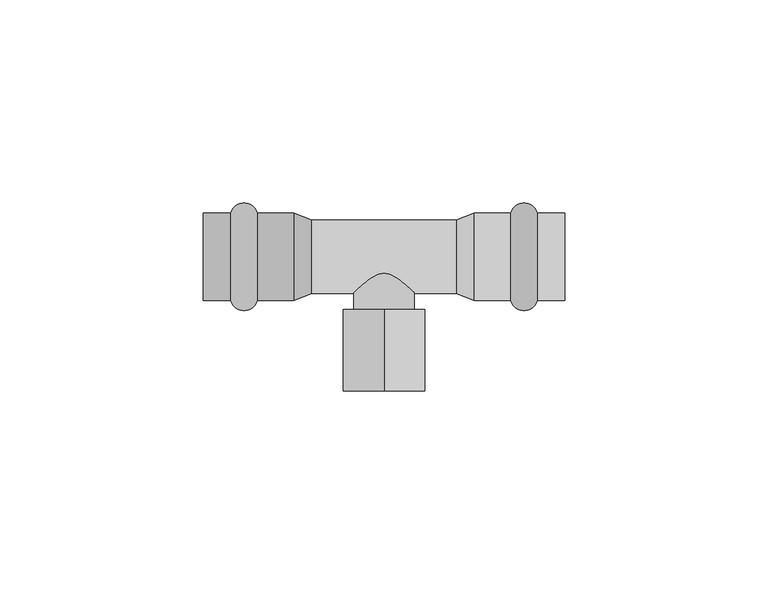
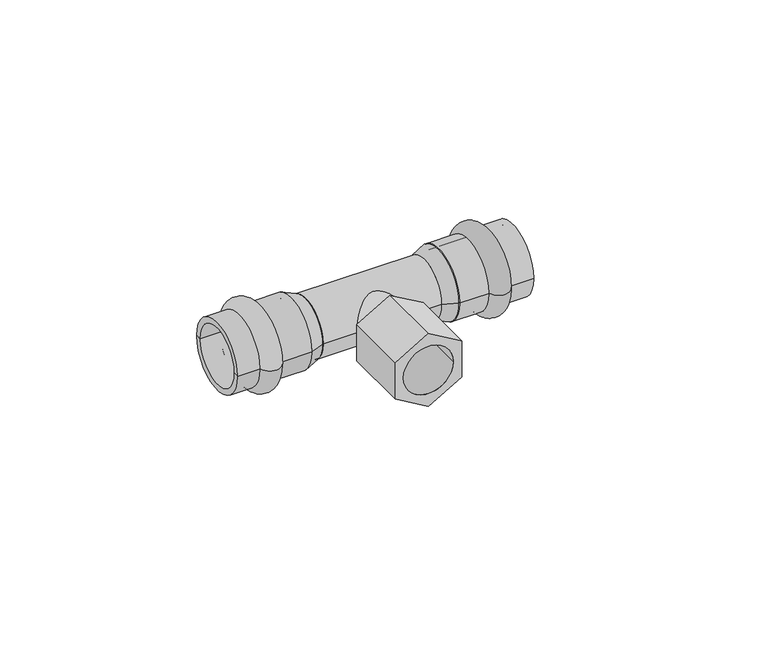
"""IFC4 building model written with IfcOpenShell, lengths in millimetres: pipe fitting geometry, VALTEC_VTi.932.I_Тройник с переходом на внутреннюю резьбу нержавеющая сталь : VTi.932.I."""

from ifc_helpers import new_model, si_unit, point, frame, origin, origin_2d, place, context, project, spatial, polyline, circle_curve, ellipse_curve, trimmed, segment, composite_curve, outline, extrude, source, transform, mapped, element, save
from ifc_brep_helpers import plane_surface, cylinder_surface, revolved_surface, advanced_brep


def pipe_fitting_5465157c(model_context):
    return source(origin(), model_context, "Body", "SolidModel", [
        advanced_brep(
        [(37.7287193, 10.75, 0.0), (37.7287193, -10.75, 0.0), (31.1712807, -10.75, 0.0), (31.1712807, 10.75, 0.0), (44.5, 10.75, 0.0), (44.5, -10.75, 0.0), (44.5, 9.0, 0.0), (44.5, -9.0, 0.0), (22.25, 9.0, 0.0), (22.25, -9.0, 0.0), (22.25, 10.75, 0.0), (22.25, -10.75, 0.0)],
        [
            (0, 1, circle_curve(frame((37.7287193, 0.0, 0.0), z_axis=(-1.0, 0.0, 0.0), x_axis=(0.0, -1.0, 0.0)), 10.75)),
            (1, 2, circle_curve(frame((34.45, -9.85, 0.0), z_axis=(0.0, 0.0, -1.0), x_axis=(-1.0, 0.0, 0.0)), 3.4)),
            (2, 3, circle_curve(frame((31.1712807, 0.0, 0.0), z_axis=(1.0, 0.0, 0.0), x_axis=(0.0, -1.0, 0.0)), 10.75)),
            (3, 0, circle_curve(frame((34.45, 9.85, 0.0), z_axis=(0.0, 0.0, -1.0), x_axis=(-1.0, 0.0, 0.0)), 3.4)),
            (1, 0, circle_curve(frame((37.7287193, 0.0, 0.0), z_axis=(-1.0, 0.0, 0.0), x_axis=(0.0, -1.0, 0.0)), 10.75)),
            (3, 2, circle_curve(frame((31.1712807, 0.0, 0.0), z_axis=(1.0, 0.0, 0.0), x_axis=(0.0, -1.0, 0.0)), 10.75)),
            (4, 5, circle_curve(frame((44.5, 0.0, 0.0), z_axis=(-1.0, 0.0, 0.0), x_axis=(0.0, -1.0, 0.0)), 10.75)),
            (5, 1),
            (0, 4),
            (5, 4, circle_curve(frame((44.5, 0.0, 0.0), z_axis=(-1.0, 0.0, 0.0), x_axis=(0.0, -1.0, 0.0)), 10.75)),
            (6, 7, circle_curve(frame((44.5, 0.0, 0.0), z_axis=(-1.0, 0.0, 0.0), x_axis=(0.0, -1.0, 0.0)), 9.0)),
            (7, 5),
            (4, 6),
            (7, 6, circle_curve(frame((44.5, 0.0, 0.0), z_axis=(-1.0, 0.0, 0.0), x_axis=(0.0, -1.0, 0.0)), 9.0)),
            (8, 9, circle_curve(frame((22.25, 0.0, 0.0), z_axis=(-1.0, 0.0, 0.0), x_axis=(0.0, -1.0, 0.0)), 9.0)),
            (9, 7),
            (6, 8),
            (9, 8, circle_curve(frame((22.25, 0.0, 0.0), z_axis=(-1.0, 0.0, 0.0), x_axis=(0.0, -1.0, 0.0)), 9.0)),
            (10, 11, circle_curve(frame((22.25, 0.0, 0.0), z_axis=(-1.0, 0.0, 0.0), x_axis=(0.0, -1.0, 0.0)), 10.75)),
            (11, 9),
            (8, 10),
            (11, 10, circle_curve(frame((22.25, 0.0, 0.0), z_axis=(-1.0, 0.0, 0.0), x_axis=(0.0, -1.0, 0.0)), 10.75)),
            (2, 11),
            (10, 3),
        ],
        [
            revolved_surface(trimmed(ellipse_curve(frame((34.45, -9.85, 0.0), z_axis=(0.0, 0.0, 1.0), x_axis=(-1.0, 0.0, 0.0)), 3.4, 3.4), [point((31.1712807, -10.75, 0.0))], [point((37.7287193, -10.75, 0.0))], True, "CARTESIAN"), (48.0364426, 0.0, 0.0), (1.0, 0.0, 0.0)),
            cylinder_surface(frame((48.0364426, 0.0, 0.0), z_axis=(1.0, 0.0, 0.0), x_axis=(0.0, -1.0, 0.0)), 10.75),
            plane_surface(frame((44.5, 0.0, 0.0), z_axis=(1.0, 0.0, 0.0), x_axis=(0.0, -1.0, 0.0))),
            revolved_surface(polyline([(44.5, -9.0, 0.0), (22.25, -9.0, 0.0)]), (48.0364426, 0.0, 0.0), (1.0, 0.0, 0.0)),
            plane_surface(frame((22.25, 0.0, 0.0), z_axis=(-1.0, 0.0, 0.0), x_axis=(0.0, -1.0, 0.0))),
        ],
        [
            (0, [[1, 2, 3, 4]]),
            (0, [[5, -4, 6, -2]]),
            (1, [[7, 8, -1, 9]]),
            (1, [[10, -9, -5, -8]]),
            (2, [[11, 12, -7, 13]]),
            (2, [[14, -13, -10, -12]]),
            (3, [[15, 16, -11, 17]]),
            (3, [[18, -17, -14, -16]]),
            (4, [[19, 20, -15, 21]]),
            (4, [[22, -21, -18, -20]]),
            (1, [[-3, 23, -19, 24]]),
            (1, [[-6, -24, -22, -23]]),
        ],
    ),
        advanced_brep(
        [(-37.7287193, -10.75, 0.0), (-37.7287193, 10.75, 0.0), (-31.1712807, 10.75, 0.0), (-31.1712807, -10.75, 0.0), (-44.5, -10.75, 0.0), (-44.5, 10.75, 0.0), (-44.5, -9.0, 0.0), (-44.5, 9.0, 0.0), (-22.25, -9.0, 0.0), (-22.25, 9.0, 0.0), (-22.25, -10.75, 0.0), (-22.25, 10.75, 0.0)],
        [
            (0, 1, circle_curve(frame((-37.7287193, 0.0, 0.0), z_axis=(1.0, 0.0, 0.0), x_axis=(0.0, 1.0, 0.0)), 10.75)),
            (1, 2, circle_curve(frame((-34.45, 9.85, 0.0), z_axis=(0.0, 0.0, -1.0), x_axis=(1.0, 0.0, 0.0)), 3.4)),
            (2, 3, circle_curve(frame((-31.1712807, 0.0, 0.0), z_axis=(-1.0, 0.0, 0.0), x_axis=(0.0, 1.0, 0.0)), 10.75)),
            (3, 0, circle_curve(frame((-34.45, -9.85, 0.0), z_axis=(0.0, 0.0, -1.0), x_axis=(1.0, 0.0, 0.0)), 3.4)),
            (1, 0, circle_curve(frame((-37.7287193, 0.0, 0.0), z_axis=(1.0, 0.0, 0.0), x_axis=(0.0, 1.0, 0.0)), 10.75)),
            (3, 2, circle_curve(frame((-31.1712807, 0.0, 0.0), z_axis=(-1.0, 0.0, 0.0), x_axis=(0.0, 1.0, 0.0)), 10.75)),
            (4, 5, circle_curve(frame((-44.5, 0.0, 0.0), z_axis=(1.0, 0.0, 0.0), x_axis=(0.0, 1.0, 0.0)), 10.75)),
            (5, 1),
            (0, 4),
            (5, 4, circle_curve(frame((-44.5, 0.0, 0.0), z_axis=(1.0, 0.0, 0.0), x_axis=(0.0, 1.0, 0.0)), 10.75)),
            (6, 7, circle_curve(frame((-44.5, 0.0, 0.0), z_axis=(1.0, 0.0, 0.0), x_axis=(0.0, 1.0, 0.0)), 9.0)),
            (7, 5),
            (4, 6),
            (7, 6, circle_curve(frame((-44.5, 0.0, 0.0), z_axis=(1.0, 0.0, 0.0), x_axis=(0.0, 1.0, 0.0)), 9.0)),
            (8, 9, circle_curve(frame((-22.25, 0.0, 0.0), z_axis=(1.0, 0.0, 0.0), x_axis=(0.0, 1.0, 0.0)), 9.0)),
            (9, 7),
            (6, 8),
            (9, 8, circle_curve(frame((-22.25, 0.0, 0.0), z_axis=(1.0, 0.0, 0.0), x_axis=(0.0, 1.0, 0.0)), 9.0)),
            (10, 11, circle_curve(frame((-22.25, 0.0, 0.0), z_axis=(1.0, 0.0, 0.0), x_axis=(0.0, 1.0, 0.0)), 10.75)),
            (11, 9),
            (8, 10),
            (11, 10, circle_curve(frame((-22.25, 0.0, 0.0), z_axis=(1.0, 0.0, 0.0), x_axis=(0.0, 1.0, 0.0)), 10.75)),
            (2, 11),
            (10, 3),
        ],
        [
            revolved_surface(trimmed(ellipse_curve(frame((-34.45, 9.85, 0.0), z_axis=(0.0, 0.0, 1.0), x_axis=(1.0, 0.0, 0.0)), 3.4, 3.4), [point((-31.1712807, 10.75, 0.0))], [point((-37.7287193, 10.75, 0.0))], True, "CARTESIAN"), (-48.0364426, 0.0, 0.0), (-1.0, 0.0, 0.0)),
            cylinder_surface(frame((-48.0364426, 0.0, 0.0), z_axis=(-1.0, 0.0, 0.0), x_axis=(0.0, 1.0, 0.0)), 10.75),
            plane_surface(frame((-44.5, 0.0, 0.0), z_axis=(-1.0, 0.0, 0.0), x_axis=(0.0, 1.0, 0.0))),
            revolved_surface(polyline([(-44.5, 9.0, 0.0), (-22.25, 9.0, 0.0)]), (-48.0364426, 0.0, 0.0), (-1.0, 0.0, 0.0)),
            plane_surface(frame((-22.25, 0.0, 0.0), z_axis=(1.0, 0.0, 0.0), x_axis=(0.0, 1.0, 0.0))),
        ],
        [
            (0, [[1, 2, 3, 4]]),
            (0, [[5, -4, 6, -2]]),
            (1, [[7, 8, -1, 9]]),
            (1, [[10, -9, -5, -8]]),
            (2, [[11, 12, -7, 13]]),
            (2, [[14, -13, -10, -12]]),
            (3, [[15, 16, -11, 17]]),
            (3, [[18, -17, -14, -16]]),
            (4, [[19, 20, -15, 21]]),
            (4, [[22, -21, -18, -20]]),
            (1, [[-3, 23, -19, 24]]),
            (1, [[-6, -24, -22, -23]]),
        ],
    ),
        extrude(outline(polyline([(11.5470054, 0.0), (5.7735027, -10.0), (-5.7735027, -10.0), (-11.5470054, 0.0), (-5.7735027, 10.0), (5.7735027, 10.0), (11.5470054, 0.0)]), holes=[composite_curve([segment(trimmed(circle_curve(origin_2d(), 7.5), [point((0.0, -7.5))], [point((0.0, 7.5))], True, "CARTESIAN"), True, "CONTINUOUS"), segment(trimmed(circle_curve(origin_2d(), 7.5), [point((0.0, 7.5))], [point((0.0, -7.5))], True, "CARTESIAN"), True, "CONTINUOUS")], self_intersect=False)]), frame((0.0, -33.0, 0.0), z_axis=(0.0, 1.0, 0.0), x_axis=(0.0, 0.0, 1.0)), (0.0, 0.0, 1.0), 20.0),
        extrude(outline(composite_curve([segment(trimmed(circle_curve(origin_2d(), 7.5), [point((0.0, -7.5))], [point((0.0, 7.5))], False, "CARTESIAN"), True, "CONTINUOUS"), segment(trimmed(circle_curve(origin_2d(), 7.5), [point((0.0, 7.5))], [point((0.0, -7.5))], False, "CARTESIAN"), True, "CONTINUOUS")], self_intersect=False)), frame((0.0, -13.0, 0.0), z_axis=(0.0, 1.0, 0.0), x_axis=(0.0, 0.0, 1.0)), (0.0, 0.0, 1.0), 13.0),
        extrude(outline(composite_curve([segment(trimmed(circle_curve(origin_2d(), 9.0), [point((-9.0, 0.0))], [point((9.0, 0.0))], False, "CARTESIAN"), True, "CONTINUOUS"), segment(trimmed(circle_curve(origin_2d(), 9.0), [point((9.0, 0.0))], [point((-9.0, 0.0))], False, "CARTESIAN"), True, "CONTINUOUS")], self_intersect=False)), frame((-17.8, 0.0, 0.0), z_axis=(1.0, 0.0, 0.0), x_axis=(0.0, 1.0, 0.0)), (0.0, 0.0, 1.0), 35.6),
        advanced_brep(
        [(22.25, -10.75, 0.0), (22.25, 10.75, 0.0), (17.8, -9.0, 0.0), (17.8, 9.0, 0.0)],
        [
            (0, 1, circle_curve(frame((22.25, 0.0, 0.0), z_axis=(1.0, 0.0, 0.0), x_axis=(0.0, -1.0, 0.0)), 10.75)),
            (1, 0, circle_curve(frame((22.25, 0.0, 0.0), z_axis=(1.0, 0.0, 0.0), x_axis=(0.0, 1.0, 0.0)), 10.75)),
            (2, 3, circle_curve(frame((17.8, 0.0, 0.0), z_axis=(-1.0, 0.0, 0.0), x_axis=(0.0, 1.0, 0.0)), 9.0)),
            (3, 2, circle_curve(frame((17.8, 0.0, 0.0), z_axis=(-1.0, 0.0, 0.0), x_axis=(0.0, -1.0, 0.0)), 9.0)),
            (3, 1),
            (0, 2),
        ],
        [
            plane_surface(frame((22.25, 0.0, 0.0), z_axis=(1.0, 0.0, 0.0), x_axis=(0.0, 0.0, 1.0))),
            plane_surface(frame((17.8, 0.0, 0.0), z_axis=(-1.0, 0.0, 0.0), x_axis=(0.0, 0.0, 1.0))),
            revolved_surface(polyline([(17.8, 9.000000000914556, 0.0), (22.25, 10.75, 0.0)]), (-5.0857143, 0.0, 0.0), (1.0, 0.0, 0.0)),
            revolved_surface(polyline([(17.8, -9.000000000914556, 0.0), (22.25, -10.75, 0.0)]), (-5.0857143, 0.0, 0.0), (1.0, 0.0, 0.0)),
        ],
        [
            (0, [[1, 2]]),
            (1, [[3, 4]]),
            (2, [[-4, 5, -1, 6]]),
            (3, [[-3, -6, -2, -5]]),
        ],
    ),
        advanced_brep(
        [(-22.25, -10.75, 0.0), (-22.25, 10.75, 0.0), (-17.8, -9.0, 0.0), (-17.8, 9.0, 0.0)],
        [
            (0, 1, circle_curve(frame((-22.25, 0.0, 0.0), z_axis=(-1.0, 0.0, 0.0), x_axis=(0.0, -1.0, 0.0)), 10.75)),
            (1, 0, circle_curve(frame((-22.25, 0.0, 0.0), z_axis=(-1.0, 0.0, 0.0), x_axis=(0.0, 1.0, 0.0)), 10.75)),
            (2, 3, circle_curve(frame((-17.8, 0.0, 0.0), z_axis=(1.0, 0.0, 0.0), x_axis=(0.0, 1.0, 0.0)), 9.0)),
            (3, 2, circle_curve(frame((-17.8, 0.0, 0.0), z_axis=(1.0, 0.0, 0.0), x_axis=(0.0, -1.0, 0.0)), 9.0)),
            (2, 0),
            (1, 3),
        ],
        [
            plane_surface(frame((-22.25, 0.0, 0.0), z_axis=(-1.0, 0.0, 0.0), x_axis=(0.0, 0.0, -1.0))),
            plane_surface(frame((-17.8, 0.0, 0.0), z_axis=(1.0, 0.0, 0.0), x_axis=(0.0, 0.0, -1.0))),
            revolved_surface(polyline([(-17.8, -9.000000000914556, 0.0), (-22.25, -10.75, 0.0)]), (5.0857143, 0.0, 0.0), (-1.0, 0.0, 0.0)),
            revolved_surface(polyline([(-17.8, 9.000000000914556, 0.0), (-22.25, 10.75, 0.0)]), (5.0857143, 0.0, 0.0), (-1.0, 0.0, 0.0)),
        ],
        [
            (0, [[1, 2]]),
            (1, [[3, 4]]),
            (2, [[-3, 5, -2, 6]]),
            (3, [[-4, -6, -1, -5]]),
        ],
    ),
    ])


if __name__ == "__main__":
    model = new_model("IFC4")
    model_context = context("Model", 3, world=origin())
    ifc_project = project(units=[si_unit("LENGTHUNIT", "METRE", prefix="MILLI")], contexts=[model_context])
    site = spatial("IfcSite", under=ifc_project)
    building = spatial("IfcBuilding", under=site)
    placement = place(None, origin())
    pipe_fitting_shape = pipe_fitting_5465157c(model_context)
    element("IfcPipeFitting", 1, ObjectType="VALTEC_VTi.932.I_Тройник с переходом на внутреннюю резьбу нержавеющая сталь : VTi.932.I", at=placement, inside=building, context=model_context, shape_type="MappedRepresentation", body=[
        mapped(pipe_fitting_shape, transform((0.0, 0.0, 0.0), x_axis=(1.0, 0.0, 0.0), y_axis=(0.0, 1.0, 0.0), z_axis=(0.0, 0.0, 1.0))),
    ])
    save(model, "model.ifc")
